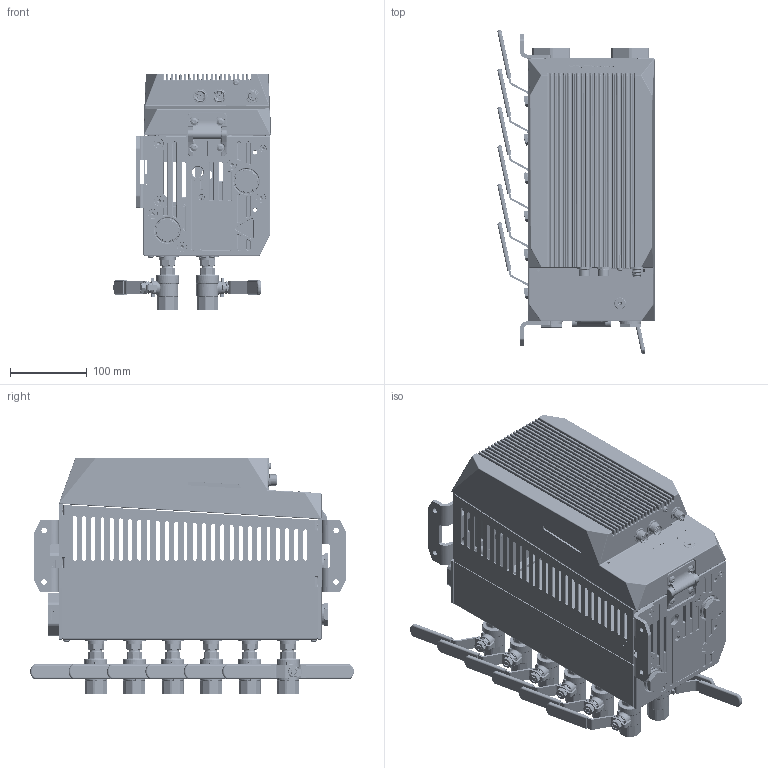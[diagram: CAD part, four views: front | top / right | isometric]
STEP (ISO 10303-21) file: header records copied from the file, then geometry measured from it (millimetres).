
FILE_DESCRIPTION (( 'STEP AP214' ), '1' );
FILE_NAME ('HB-FX1XXL61-6-ZH.STEP', '2026-03-02T09:20:10', ( '' ), ( '' ), 'SwSTEP 2.0', 'SolidWorks 2023', '' );
FILE_SCHEMA (( 'AUTOMOTIVE_DESIGN' ));
Length unit declared in the file: millimetre
Products named in the file (25): Kopie (2) von B3061620^Kopie von K8534-Hülle Teil2_K8534-Hülle kompl_M4x12; Kopie von 29827^Kopie von K8534-Hülle Teil2_K8534-Hülle kompl; 29857_00 - geschlossen; Kopie von Kopie von 24568^Kopie von K8534-Hülle Teil3_K8534-Hülle kompl_00; Kopie von 29818-X^Kopie von K8534-Hülle Teil3_K8534-Hülle kompl_01-mit Beschriftung; KX508-2_1^Kopie von 28706_Kopie von K8534-Hülle Teil2_K8534-Hülle kompl; 29788_Geschlossen; Kopie von K8534-Hülle Teil3^K8534-Hülle kompl_6-FACH-LINKS HB-Therm; KX508-2_2^Kopie von 28706_Kopie von K8534-Hülle Teil2_K8534-Hülle kompl; Kopie von K8534-Hülle Teil2^K8534-Hülle kompl_6-Fach HB-Therm; Kopie von 29730^Kopie von K8534-Hülle Teil3_K8534-Hülle kompl_00; Kopie von 28706^Kopie von K8534-Hülle Teil2_K8534-Hülle kompl_180°; Kopie von 29812-X^Kopie von K8534-Hülle Teil3_K8534-Hülle kompl_01-mit Beschriftung; Kopie von 29734-X^Kopie von K8534-Hülle Teil3_K8534-Hülle kompl_00; 29669_00; 29702_A15x1-A2; Kopie von 28862^Kopie von K8534-Hülle Teil2_K8534-Hülle kompl_M5x12; HB-FX1XXL61-6-ZH; Kopie von 29793-X^Kopie von K8534-Hülle Teil2_K8534-Hülle kompl_29793-1; KX508-2_3^Kopie von 28706_Kopie von K8534-Hülle Teil2_K8534-Hülle kompl; Kopie von K8534-Hülle LINKS^Kopie von K8534-Hülle Teil3_K8534-Hülle kompl_6-FACH; Kopie von Kopie von 29730^Kopie von K8534-Hülle Teil2_K8534-Hülle kompl_00; Kopie von 29733-X^Kopie von K8534-Hülle Teil2_K8534-Hülle kompl; Kopie von 29714^Kopie von K8534-Hülle Teil2_K8534-Hülle kompl; Kopie von 29823-X^Kopie von K8534-Hülle Teil3_K8534-Hülle kompl_00
Assembly tree (45 placements, depth 4):
  HB-FX1XXL61-6-ZH
    Kopie von K8534-Hülle Teil3^K8534-Hülle kompl_6-FACH-LINKS HB-Therm
      Kopie von 29734-X^Kopie von K8534-Hülle Teil3_K8534-Hülle kompl_00  x2
      Kopie von 29730^Kopie von K8534-Hülle Teil3_K8534-Hülle kompl_00  x4
      Kopie von K8534-Hülle LINKS^Kopie von K8534-Hülle Teil3_K8534-Hülle kompl_6-FACH
      Kopie von 29812-X^Kopie von K8534-Hülle Teil3_K8534-Hülle kompl_01-mit Beschriftung
      Kopie von 29818-X^Kopie von K8534-Hülle Teil3_K8534-Hülle kompl_01-mit Beschriftung
      Kopie von 29823-X^Kopie von K8534-Hülle Teil3_K8534-Hülle kompl_00
      Kopie von Kopie von 24568^Kopie von K8534-Hülle Teil3_K8534-Hülle kompl_00  x2
    Kopie von K8534-Hülle Teil2^K8534-Hülle kompl_6-Fach HB-Therm
      Kopie von 29827^Kopie von K8534-Hülle Teil2_K8534-Hülle kompl  x2
      Kopie von 29714^Kopie von K8534-Hülle Teil2_K8534-Hülle kompl
      Kopie von 28862^Kopie von K8534-Hülle Teil2_K8534-Hülle kompl_M5x12  x4
      Kopie von 28706^Kopie von K8534-Hülle Teil2_K8534-Hülle kompl_180°
        KX508-2_1^Kopie von 28706_Kopie von K8534-Hülle Teil2_K8534-Hülle kompl
        KX508-2_2^Kopie von 28706_Kopie von K8534-Hülle Teil2_K8534-Hülle kompl
        KX508-2_3^Kopie von 28706_Kopie von K8534-Hülle Teil2_K8534-Hülle kompl
      Kopie von 29793-X^Kopie von K8534-Hülle Teil2_K8534-Hülle kompl_29793-1
      Kopie von Kopie von 29730^Kopie von K8534-Hülle Teil2_K8534-Hülle kompl_00  x2
      Kopie von 29733-X^Kopie von K8534-Hülle Teil2_K8534-Hülle kompl
      Kopie (2) von B3061620^Kopie von K8534-Hülle Teil2_K8534-Hülle kompl_M4x12
    29857_00 - geschlossen  x12
      29788_Geschlossen
      29669_00
      29702_A15x1-A2
Bounding box: 204.47 x 421.24 x 307.8 mm (x, y, z)
Volume: 1813465.1 mm3; surface area: 1184050.8 mm2
Topology: 266 solids, 267 shells, 11468 faces, 27628 edges, 16876 vertices
Faces by surface type: plane 4012, cylinder 3327, torus 1318, cone 1294, bspline 1186, sphere 331
Full cylindrical faces by diameter (mm): 2.5 x13, 3.3 x24, 3.6 x1, 4 x12, 4.2 x5, 4.5 x6, 4.6 x1, 4.9 x6, 5 x36, 5.2 x4, 6 x14, 6.6 x12, 6.8 x2, 7 x18, 7.8 x2, 8 x72, 8.013 x12, 8.3 x1, 8.4 x4, 9.4 x1, 10 x25, 10.2 x1, 10.3 x1, 10.5 x48, 10.55 x1, 10.8 x2, 11.04 x12, 12 x26, 12.1 x10, 12.3 x12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
Entity records: 339706 total; most frequent: CARTESIAN_POINT 97907, ORIENTED_EDGE 34496, DIRECTION 33103, EDGE_CURVE 17248, AXIS2_PLACEMENT_3D 12683, VERTEX_POINT 10894, EDGE_LOOP 8784, FACE_OUTER_BOUND 7835
